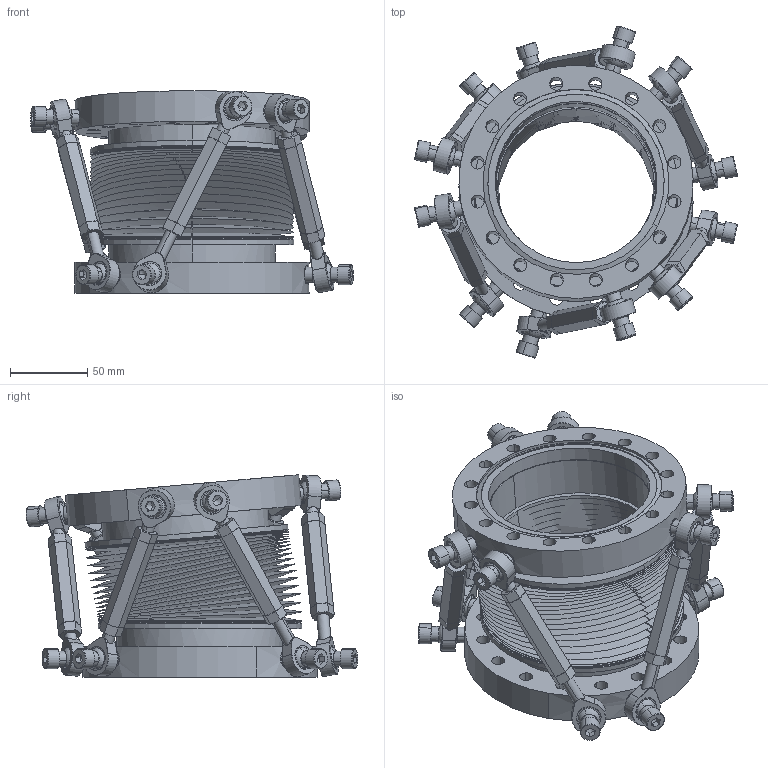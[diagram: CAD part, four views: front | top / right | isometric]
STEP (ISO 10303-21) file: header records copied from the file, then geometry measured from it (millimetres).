
FILE_DESCRIPTION(('Confidential','CAx-IF Rec.Pracs.--- Model Styling and Organization---1.2---2011-12-15'),'2;1');
FILE_NAME('W:\KONSTRUKTION\PRODUCTS\PA\PA100HEX\PA100HEX\PA100HEX_lateral_5mm_angular_5°.stp','2024-04-23T09:12:53+00:00',('none'),('Ferrovac AG'),'CATIA Version 5 Release 21 SP 6 (IN-10)','CATIA V5 STEP AP214','PROPERTY OF FERROVAC AG');
FILE_SCHEMA(('AUTOMOTIVE_DESIGN { 1 0 10303 214 1 1 1 1 }'));
Length unit declared in the file: millimetre
Products named in the file (1): PA100HEX_lateral_5mm_angular_5°
Bounding box: 209.45 x 215.28 x 131.38 mm (x, y, z)
Volume: 662807.2 mm3; surface area: 397100.3 mm2
Topology: 1 solids, 33 shells, 1656 faces, 3898 edges, 2426 vertices
Faces by surface type: cylinder 536, plane 515, cone 256, bspline 153, torus 100, sphere 96
Entity records: 57757 total; most frequent: CARTESIAN_POINT 24567, ORIENTED_EDGE 7716, DIRECTION 4655, EDGE_CURVE 3858, AXIS2_PLACEMENT_3D 2438, VERTEX_POINT 2426, EDGE_LOOP 1916, ADVANCED_FACE 1656
